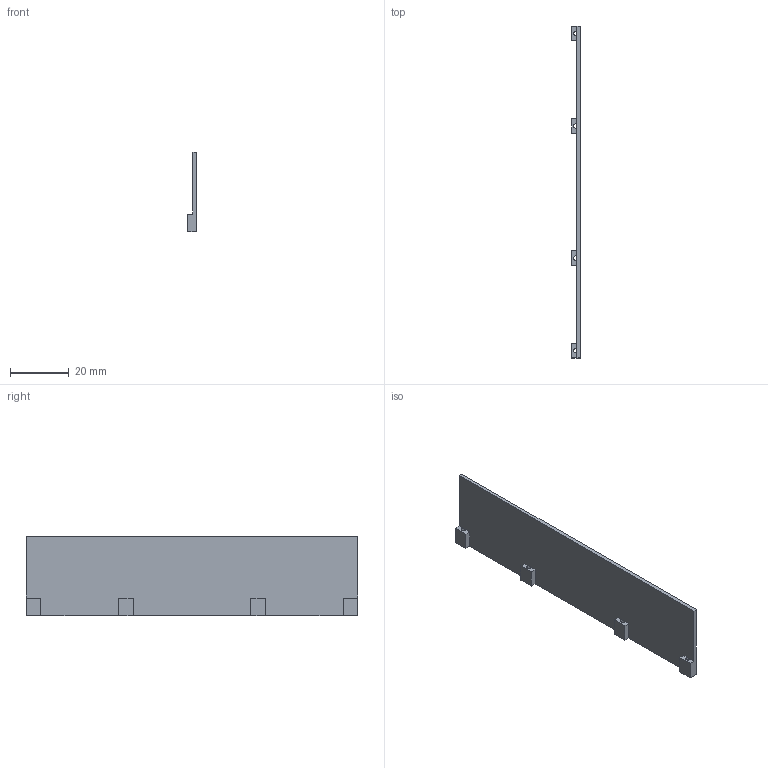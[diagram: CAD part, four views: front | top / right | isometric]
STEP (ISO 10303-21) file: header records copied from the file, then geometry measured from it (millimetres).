
FILE_DESCRIPTION (( 'STEP AP203' ), '1' );
FILE_NAME ('殑結啣7.STEP', '2026-09-24T08:29:20', ( '' ), ( '' ), 'SwSTEP 2.0', 'SolidWorks 2016', '' );
FILE_SCHEMA (( 'CONFIG_CONTROL_DESIGN' ));
Length unit declared in the file: millimetre
Products named in the file (1): 殑結啣7
Bounding box: 3 x 113 x 27 mm (x, y, z)
Volume: 3828.4 mm3; surface area: 6702.9 mm2
Topology: 1 solids, 1 shells, 40 faces, 110 edges, 68 vertices
Faces by surface type: plane 24, cone 8, cylinder 8
Entity records: 1351 total; most frequent: DIRECTION 224, ORIENTED_EDGE 220, CARTESIAN_POINT 219, EDGE_CURVE 110, VECTOR 78, LINE 78, AXIS2_PLACEMENT_3D 73, VERTEX_POINT 68
